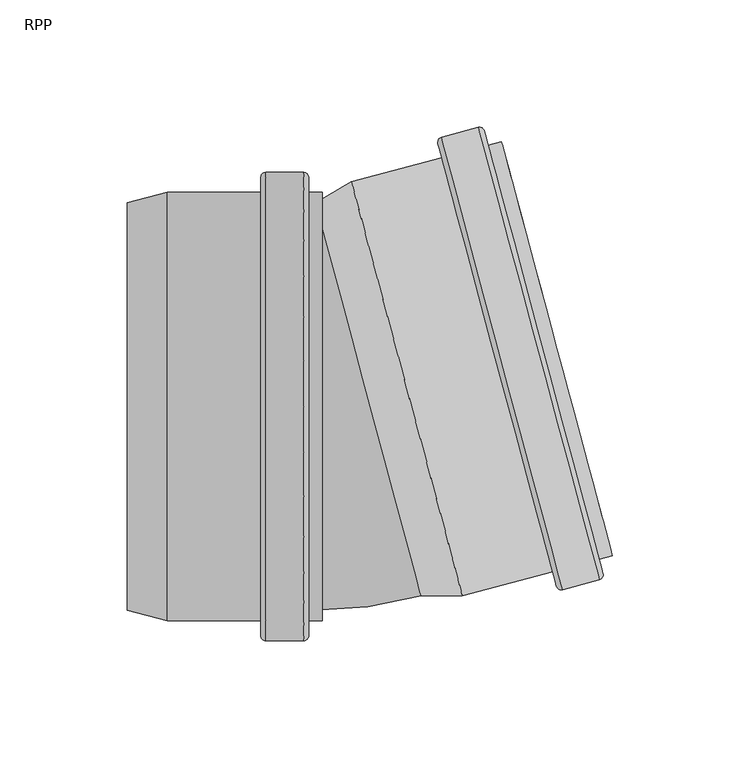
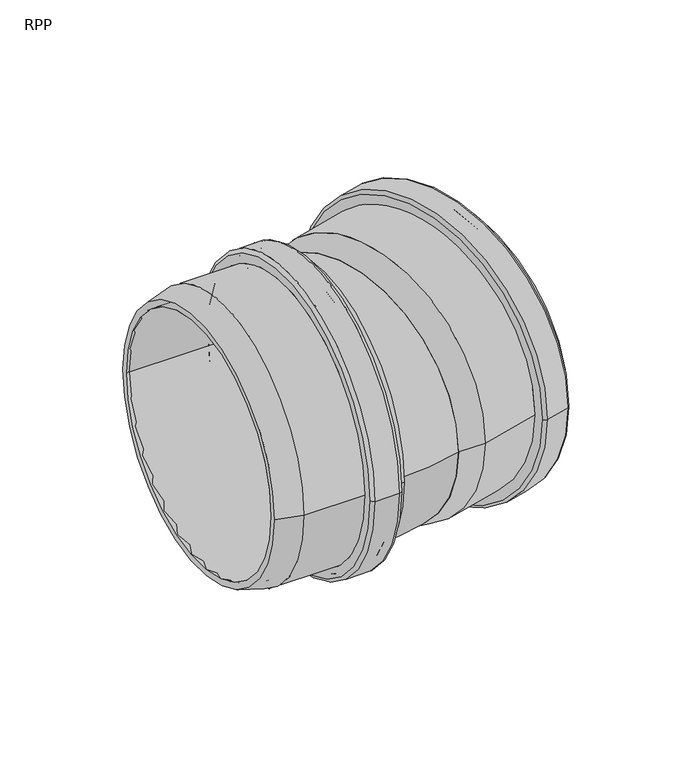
"""IFC4 building model written with IfcOpenShell, lengths in millimetres: pipe fitting geometry, RAUPIANO PLUS Bend : RPP."""

from ifc_helpers import new_model, si_unit, point, frame, origin, place, context, project, spatial, polyline, circle_curve, ellipse_curve, trimmed, source, transform, mapped, element, save
from ifc_brep_helpers import plane_surface, cylinder_surface, revolved_surface, advanced_brep


def rpp_5b691334(model_context):
    return source(origin(), model_context, "Body", "AdvancedBrep", [
        advanced_brep(
        [(-27.7588098, -80.3, 0.0), (-27.7588098, 80.3, 0.0), (-67.8707517, 80.3, 0.0), (-67.8707517, -80.3, 0.0), (-27.2588098, -88.1, 0.0), (-27.2588098, 88.1, 0.0), (-27.7588098, 87.6, 0.0), (-27.7588098, -87.6, 0.0), (-17.1588098, -88.1, 0.0), (-17.1588098, 88.1, 0.0), (-16.6588098, -87.6, 0.0), (-16.6588098, 87.6, 0.0), (-7.3588098, -80.3, 0.0), (-7.3588098, 80.3, 0.0), (-16.6588098, 80.3, 0.0), (-16.6588098, -80.3, 0.0), (-12.7588098, -84.2, 0.0), (-12.7588098, 84.2, 0.0), (-7.3588098, 84.2, 0.0), (-7.3588098, -84.2, 0.0), (-14.7588098, -92.0, 0.0), (-14.7588098, 92.0, 0.0), (-12.7588098, 90.0, 0.0), (-12.7588098, -90.0, 0.0), (-29.6588098, -92.0, 0.0), (-29.6588098, 92.0, 0.0), (-31.6588098, -90.0, 0.0), (-31.6588098, 90.0, 0.0), (-68.3841964, -84.2, 0.0), (-68.3841964, 84.2, 0.0), (-31.6588098, 84.2, 0.0), (-31.6588098, -84.2, 0.0), (-84.0588098, -80.0, 0.0), (-84.0588098, 80.0, 0.0), (-84.0588098, 75.9624229, 0.0), (-84.0588098, -75.9624229, 0.0)],
        [
            (0, 1, circle_curve(frame((-27.7588098, 0.0, 0.0), z_axis=(1.0, 0.0, 0.0), x_axis=(0.0, 1.0, 0.0)), 80.3)),
            (1, 2),
            (2, 3, circle_curve(frame((-67.8707517, 0.0, 0.0), z_axis=(-1.0, 0.0, 0.0), x_axis=(0.0, 1.0, 0.0)), 80.3)),
            (3, 0),
            (4, 5, circle_curve(frame((-27.2588098, 0.0, 0.0), z_axis=(1.0, 0.0, 0.0), x_axis=(0.0, 1.0, 0.0)), 88.1)),
            (5, 6, circle_curve(frame((-27.2588098, 87.6, 0.0), z_axis=(0.0, 0.0, 1.0), x_axis=(0.0, -1.0, 0.0)), 0.5)),
            (6, 7, circle_curve(frame((-27.7588098, 0.0, 0.0), z_axis=(-1.0, 0.0, 0.0), x_axis=(0.0, 1.0, 0.0)), 87.6)),
            (7, 4, circle_curve(frame((-27.2588098, -87.6, 0.0), z_axis=(0.0, 0.0, 1.0), x_axis=(0.0, 1.0, 0.0)), 0.5)),
            (8, 9, circle_curve(frame((-17.1588098, 0.0, 0.0), z_axis=(1.0, 0.0, 0.0), x_axis=(0.0, 1.0, 0.0)), 88.1)),
            (9, 5),
            (4, 8),
            (10, 11, circle_curve(frame((-16.6588098, 0.0, 0.0), z_axis=(1.0, 0.0, 0.0), x_axis=(0.0, 1.0, 0.0)), 87.6)),
            (11, 9, circle_curve(frame((-17.1588098, 87.6, 0.0), z_axis=(0.0, 0.0, 1.0), x_axis=(0.0, -1.0, 0.0)), 0.5)),
            (8, 10, circle_curve(frame((-17.1588098, -87.6, 0.0), z_axis=(0.0, 0.0, 1.0), x_axis=(0.0, 1.0, 0.0)), 0.5)),
            (12, 13, circle_curve(frame((-7.3588098, 0.0, 0.0), z_axis=(1.0, 0.0, 0.0), x_axis=(0.0, 1.0, 0.0)), 80.3)),
            (13, 14),
            (14, 15, circle_curve(frame((-16.6588098, 0.0, 0.0), z_axis=(-1.0, 0.0, 0.0), x_axis=(0.0, 1.0, 0.0)), 80.3)),
            (15, 12),
            (16, 17, circle_curve(frame((-12.7588098, 0.0, 0.0), z_axis=(1.0, 0.0, 0.0), x_axis=(0.0, 1.0, 0.0)), 84.2)),
            (17, 18),
            (18, 19, circle_curve(frame((-7.3588098, 0.0, 0.0), z_axis=(-1.0, 0.0, 0.0), x_axis=(0.0, 1.0, 0.0)), 84.2)),
            (19, 16),
            (20, 21, circle_curve(frame((-14.7588098, 0.0, 0.0), z_axis=(1.0, 0.0, 0.0), x_axis=(0.0, 1.0, 0.0)), 92.0)),
            (21, 22, circle_curve(frame((-14.7588098, 90.0, 0.0), z_axis=(0.0, 0.0, -1.0), x_axis=(0.0, -1.0, 0.0)), 2.0)),
            (22, 23, circle_curve(frame((-12.7588098, 0.0, 0.0), z_axis=(-1.0, 0.0, 0.0), x_axis=(0.0, 1.0, 0.0)), 90.0)),
            (23, 20, circle_curve(frame((-14.7588098, -90.0, 0.0), z_axis=(0.0, 0.0, -1.0), x_axis=(0.0, 1.0, 0.0)), 2.0)),
            (24, 25, circle_curve(frame((-29.6588098, 0.0, 0.0), z_axis=(1.0, 0.0, 0.0), x_axis=(0.0, 1.0, 0.0)), 92.0)),
            (25, 21),
            (20, 24),
            (26, 27, circle_curve(frame((-31.6588098, 0.0, 0.0), z_axis=(1.0, 0.0, 0.0), x_axis=(0.0, 1.0, 0.0)), 90.0)),
            (27, 25, circle_curve(frame((-29.6588098, 90.0, 0.0), z_axis=(0.0, 0.0, -1.0), x_axis=(0.0, -1.0, 0.0)), 2.0)),
            (24, 26, circle_curve(frame((-29.6588098, -90.0, 0.0), z_axis=(0.0, 0.0, -1.0), x_axis=(0.0, 1.0, 0.0)), 2.0)),
            (28, 29, circle_curve(frame((-68.3841964, 0.0, 0.0), z_axis=(1.0, 0.0, 0.0), x_axis=(0.0, 1.0, 0.0)), 84.2)),
            (29, 30),
            (30, 31, circle_curve(frame((-31.6588098, 0.0, 0.0), z_axis=(-1.0, 0.0, 0.0), x_axis=(0.0, 1.0, 0.0)), 84.2)),
            (31, 28),
            (32, 33, circle_curve(frame((-84.0588098, 0.0, 0.0), z_axis=(1.0, 0.0, 0.0), x_axis=(0.0, 1.0, 0.0)), 80.0)),
            (33, 29),
            (28, 32),
            (2, 34),
            (34, 35, circle_curve(frame((-84.0588098, 0.0, 0.0), z_axis=(-1.0, 0.0, 0.0), x_axis=(0.0, 1.0, 0.0)), 75.9624229)),
            (35, 3),
            (1, 0, circle_curve(frame((-27.7588098, 0.0, 0.0), z_axis=(1.0, 0.0, 0.0), x_axis=(0.0, -1.0, 0.0)), 80.3)),
            (3, 2, circle_curve(frame((-67.8707517, 0.0, 0.0), z_axis=(-1.0, 0.0, 0.0), x_axis=(0.0, -1.0, 0.0)), 80.3)),
            (6, 7, circle_curve(frame((-27.7588098, 0.0, 0.0), z_axis=(1.0, 0.0, 0.0), x_axis=(0.0, -1.0, 0.0)), 87.6)),
            (5, 4, circle_curve(frame((-27.2588098, 0.0, 0.0), z_axis=(1.0, 0.0, 0.0), x_axis=(0.0, -1.0, 0.0)), 88.1)),
            (9, 8, circle_curve(frame((-17.1588098, 0.0, 0.0), z_axis=(1.0, 0.0, 0.0), x_axis=(0.0, -1.0, 0.0)), 88.1)),
            (11, 10, circle_curve(frame((-16.6588098, 0.0, 0.0), z_axis=(1.0, 0.0, 0.0), x_axis=(0.0, -1.0, 0.0)), 87.6)),
            (14, 15, circle_curve(frame((-16.6588098, 0.0, 0.0), z_axis=(1.0, 0.0, 0.0), x_axis=(0.0, -1.0, 0.0)), 80.3)),
            (13, 12, circle_curve(frame((-7.3588098, 0.0, 0.0), z_axis=(1.0, 0.0, 0.0), x_axis=(0.0, -1.0, 0.0)), 80.3)),
            (18, 19, circle_curve(frame((-7.3588098, 0.0, 0.0), z_axis=(1.0, 0.0, 0.0), x_axis=(0.0, -1.0, 0.0)), 84.2)),
            (17, 16, circle_curve(frame((-12.7588098, 0.0, 0.0), z_axis=(1.0, 0.0, 0.0), x_axis=(0.0, -1.0, 0.0)), 84.2)),
            (22, 23, circle_curve(frame((-12.7588098, 0.0, 0.0), z_axis=(1.0, 0.0, 0.0), x_axis=(0.0, -1.0, 0.0)), 90.0)),
            (21, 20, circle_curve(frame((-14.7588098, 0.0, 0.0), z_axis=(1.0, 0.0, 0.0), x_axis=(0.0, -1.0, 0.0)), 92.0)),
            (25, 24, circle_curve(frame((-29.6588098, 0.0, 0.0), z_axis=(1.0, 0.0, 0.0), x_axis=(0.0, -1.0, 0.0)), 92.0)),
            (27, 26, circle_curve(frame((-31.6588098, 0.0, 0.0), z_axis=(1.0, 0.0, 0.0), x_axis=(0.0, -1.0, 0.0)), 90.0)),
            (30, 31, circle_curve(frame((-31.6588098, 0.0, 0.0), z_axis=(1.0, 0.0, 0.0), x_axis=(0.0, -1.0, 0.0)), 84.2)),
            (29, 28, circle_curve(frame((-68.3841964, 0.0, 0.0), z_axis=(1.0, 0.0, 0.0), x_axis=(0.0, -1.0, 0.0)), 84.2)),
            (33, 32, circle_curve(frame((-84.0588098, 0.0, 0.0), z_axis=(1.0, 0.0, 0.0), x_axis=(0.0, -1.0, 0.0)), 80.0)),
            (34, 35, circle_curve(frame((-84.0588098, 0.0, 0.0), z_axis=(1.0, 0.0, 0.0), x_axis=(0.0, -1.0, 0.0)), 75.9624229)),
        ],
        [
            revolved_surface(polyline([(-67.8707517, 80.3, 0.0), (-27.7588098, 80.3, 0.0)]), (-84.0588098, 0.0, 0.0), (-1.0, 0.0, 0.0)),
            revolved_surface(trimmed(ellipse_curve(frame((-27.2588098, 87.6, 0.0), z_axis=(0.0, 0.0, -1.0), x_axis=(0.0, -1.0, 0.0)), 0.5, 0.5), [point((-27.7588098, 87.6, 0.0))], [point((-27.2588098, 88.1, 0.0))], True, "CARTESIAN"), (-84.0588098, 0.0, 0.0), (-1.0, 0.0, 0.0)),
            revolved_surface(polyline([(-27.2588098, 88.1, 0.0), (-17.1588098, 88.1, 0.0)]), (-84.0588098, 0.0, 0.0), (-1.0, 0.0, 0.0)),
            revolved_surface(trimmed(ellipse_curve(frame((-17.1588098, 87.6, 0.0), z_axis=(0.0, 0.0, -1.0), x_axis=(0.0, -1.0, 0.0)), 0.5, 0.5), [point((-17.1588098, 88.1, 0.0))], [point((-16.6588098, 87.6, 0.0))], True, "CARTESIAN"), (-84.0588098, 0.0, 0.0), (-1.0, 0.0, 0.0)),
            revolved_surface(polyline([(-16.6588098, 80.3, 0.0), (-7.358809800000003, 80.3, 0.0)]), (-84.0588098, 0.0, 0.0), (-1.0, 0.0, 0.0)),
            cylinder_surface(frame((-84.0588098, 0.0, 0.0), z_axis=(-1.0, 0.0, 0.0), x_axis=(0.0, 1.0, 0.0)), 84.2),
            revolved_surface(trimmed(ellipse_curve(frame((-14.7588098, 90.0, 0.0), z_axis=(0.0, 0.0, 1.0), x_axis=(0.0, -1.0, 0.0)), 2.0, 2.0), [point((-12.7588098, 90.0, 0.0))], [point((-14.7588098, 92.0, 0.0))], True, "CARTESIAN"), (-84.0588098, 0.0, 0.0), (-1.0, 0.0, 0.0)),
            cylinder_surface(frame((-84.0588098, 0.0, 0.0), z_axis=(-1.0, 0.0, 0.0), x_axis=(0.0, 1.0, 0.0)), 92.0),
            revolved_surface(trimmed(ellipse_curve(frame((-29.6588098, 90.0, 0.0), z_axis=(0.0, 0.0, 1.0), x_axis=(0.0, -1.0, 0.0)), 2.0, 2.0), [point((-29.6588098, 92.0, 0.0))], [point((-31.6588098, 90.0, 0.0))], True, "CARTESIAN"), (-84.0588098, 0.0, 0.0), (-1.0, 0.0, 0.0)),
            revolved_surface(polyline([(-68.3841964, 84.2, 0.0), (-84.0588098, 80.0, 0.0)]), (-84.0588098, 0.0, 0.0), (-1.0, 0.0, 0.0)),
            revolved_surface(polyline([(-84.0588098, 75.9624229, 0.0), (-67.8707517, 80.3, 0.0)]), (-84.0588098, 0.0, 0.0), (-1.0, 0.0, 0.0)),
            revolved_surface(polyline([(-67.8707517, -80.3, 0.0), (-27.7588098, -80.3, 0.0)]), (-84.0588098, 0.0, 0.0), (-1.0, 0.0, 0.0)),
            plane_surface(frame((-27.7588098, 0.0, 0.0), z_axis=(1.0, 0.0, 0.0), x_axis=(0.0, -1.0, 0.0))),
            revolved_surface(trimmed(ellipse_curve(frame((-27.2588098, -87.6, 0.0), z_axis=(0.0, 0.0, 1.0), x_axis=(0.0, 1.0, 0.0)), 0.5, 0.5), [point((-27.7588098, -87.6, 0.0))], [point((-27.2588098, -88.1, 0.0))], True, "CARTESIAN"), (-84.0588098, 0.0, 0.0), (-1.0, 0.0, 0.0)),
            revolved_surface(polyline([(-27.2588098, -88.1, 0.0), (-17.1588098, -88.1, 0.0)]), (-84.0588098, 0.0, 0.0), (-1.0, 0.0, 0.0)),
            revolved_surface(trimmed(ellipse_curve(frame((-17.1588098, -87.6, 0.0), z_axis=(0.0, 0.0, 1.0), x_axis=(0.0, 1.0, 0.0)), 0.5, 0.5), [point((-17.1588098, -88.1, 0.0))], [point((-16.6588098, -87.6, 0.0))], True, "CARTESIAN"), (-84.0588098, 0.0, 0.0), (-1.0, 0.0, 0.0)),
            plane_surface(frame((-16.6588098, 0.0, 0.0), z_axis=(-1.0, 0.0, 0.0), x_axis=(0.0, -1.0, 0.0))),
            revolved_surface(polyline([(-16.6588098, -80.3, 0.0), (-7.358809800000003, -80.3, 0.0)]), (-84.0588098, 0.0, 0.0), (-1.0, 0.0, 0.0)),
            plane_surface(frame((-7.3588098, 0.0, 0.0), z_axis=(1.0, 0.0, 0.0), x_axis=(0.0, -1.0, 0.0))),
            cylinder_surface(frame((-84.0588098, 0.0, 0.0), z_axis=(-1.0, 0.0, 0.0), x_axis=(0.0, -1.0, 0.0)), 84.2),
            plane_surface(frame((-12.7588098, 0.0, 0.0), z_axis=(1.0, 0.0, 0.0), x_axis=(0.0, -1.0, 0.0))),
            revolved_surface(trimmed(ellipse_curve(frame((-14.7588098, -90.0, 0.0), z_axis=(0.0, 0.0, -1.0), x_axis=(0.0, 1.0, 0.0)), 2.0, 2.0), [point((-12.7588098, -90.0, 0.0))], [point((-14.7588098, -92.0, 0.0))], True, "CARTESIAN"), (-84.0588098, 0.0, 0.0), (-1.0, 0.0, 0.0)),
            cylinder_surface(frame((-84.0588098, 0.0, 0.0), z_axis=(-1.0, 0.0, 0.0), x_axis=(0.0, -1.0, 0.0)), 92.0),
            revolved_surface(trimmed(ellipse_curve(frame((-29.6588098, -90.0, 0.0), z_axis=(0.0, 0.0, -1.0), x_axis=(0.0, 1.0, 0.0)), 2.0, 2.0), [point((-29.6588098, -92.0, 0.0))], [point((-31.6588098, -90.0, 0.0))], True, "CARTESIAN"), (-84.0588098, 0.0, 0.0), (-1.0, 0.0, 0.0)),
            plane_surface(frame((-31.6588098, 0.0, 0.0), z_axis=(-1.0, 0.0, 0.0), x_axis=(0.0, -1.0, 0.0))),
            revolved_surface(polyline([(-68.3841964, -84.2, 0.0), (-84.0588098, -80.0, 0.0)]), (-84.0588098, 0.0, 0.0), (-1.0, 0.0, 0.0)),
            plane_surface(frame((-84.0588098, 0.0, 0.0), z_axis=(-1.0, 0.0, 0.0), x_axis=(0.0, -1.0, 0.0))),
            revolved_surface(polyline([(-84.0588098, -75.9624229, 0.0), (-67.8707517, -80.3, 0.0)]), (-84.0588098, 0.0, 0.0), (-1.0, 0.0, 0.0)),
        ],
        [
            (0, [[1, 2, 3, 4]]),
            (1, [[5, 6, 7, 8]]),
            (2, [[9, 10, -5, 11]]),
            (3, [[12, 13, -9, 14]]),
            (4, [[15, 16, 17, 18]]),
            (5, [[19, 20, 21, 22]]),
            (6, [[23, 24, 25, 26]]),
            (7, [[27, 28, -23, 29]]),
            (8, [[30, 31, -27, 32]]),
            (5, [[33, 34, 35, 36]]),
            (9, [[37, 38, -33, 39]]),
            (10, [[-3, 40, 41, 42]]),
            (11, [[43, -4, 44, -2]]),
            (12, [[45, -7], [-43, -1]]),
            (13, [[46, -8, -45, -6]]),
            (14, [[47, -11, -46, -10]]),
            (15, [[48, -14, -47, -13]]),
            (16, [[-48, -12], [49, -17]]),
            (17, [[50, -18, -49, -16]]),
            (18, [[51, -21], [-50, -15]]),
            (19, [[52, -22, -51, -20]]),
            (20, [[53, -25], [-52, -19]]),
            (21, [[54, -26, -53, -24]]),
            (22, [[55, -29, -54, -28]]),
            (23, [[56, -32, -55, -31]]),
            (24, [[-56, -30], [57, -35]]),
            (19, [[58, -36, -57, -34]]),
            (25, [[59, -39, -58, -38]]),
            (26, [[-59, -37], [60, -41]]),
            (27, [[-44, -42, -60, -40]]),
        ],
    ),
        advanced_brep(
        [(30.3425117, -70.5118355, 0.0), (-8.9785318, 76.2362967, 0.0), (5.5352841, 84.6158522, 0.0), (47.1016227, -70.5118355, 0.0), (47.6150675, -74.4118355, 0.0), (4.0299403, 88.2500736, 0.0), (-10.0235336, 80.1362967, 0.0), (31.3875136, -74.4118355, 0.0), (83.0890669, -64.906606, 0.0), (39.5039397, 97.7553031, 0.0), (101.4320019, -68.0667856, 0.0), (53.8092976, 109.6635664, 0.0), (39.4170028, 105.8071627, 0.0), (87.0397071, -71.9231894, 0.0), (106.5610645, -58.6173032, 0.0), (62.9759373, 104.0446059, 0.0), (57.7599378, 102.6469831, 0.0), (101.345065, -60.0149261, 0.0), (96.56856, -57.2572096, 0.0), (55.0022214, 97.8704781, 0.0), (63.9853315, 100.2774952, 0.0), (105.5516702, -54.8501925, 0.0), (88.3485348, -67.5349129, 0.0), (42.7446191, 102.6612176, 0.0), (52.5004699, 105.27529, 0.0), (98.1043856, -64.9208406, 0.0), (44.2804447, 94.9975867, 0.0), (85.8467833, -60.130101, 0.0), (38.0027892, 103.3576729, 0.0), (84.5902173, -70.5089758, 0.0), (102.8462155, -65.6172959, 0.0), (56.2587873, 108.2493529, 0.0), (53.1128423, 104.9217366, 0.0), (98.457939, -64.3084682, 0.0), (87.7361624, -67.1813596, 0.0), (42.3910657, 102.0488452, 0.0)],
        [
            (0, 1, circle_curve(frame((10.68199, 2.8622306, 0.0), z_axis=(-0.965925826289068, -0.25881904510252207, 0.0), x_axis=(-0.25881904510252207, 0.965925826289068, 0.0)), 75.9624229)),
            (1, 2),
            (2, 3, circle_curve(frame((26.3184534, 7.0520083, 0.0), z_axis=(0.965925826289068, 0.25881904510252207, 0.0), x_axis=(-0.25881904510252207, 0.965925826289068, 0.0)), 80.3)),
            (3, 0),
            (4, 5, circle_curve(frame((25.8225039, 6.9191191, 0.0), z_axis=(-0.965925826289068, -0.25881904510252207, 0.0), x_axis=(-0.25881904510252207, 0.965925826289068, 0.0)), 84.2)),
            (5, 6),
            (6, 7, circle_curve(frame((10.68199, 2.8622306, 0.0), z_axis=(0.965925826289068, 0.25881904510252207, 0.0), x_axis=(-0.25881904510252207, 0.965925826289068, 0.0)), 80.0)),
            (7, 4),
            (8, 9, circle_curve(frame((61.2965033, 16.4243486, 0.0), z_axis=(-0.965925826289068, -0.25881904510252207, 0.0), x_axis=(-0.25881904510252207, 0.965925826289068, 0.0)), 84.2)),
            (9, 5),
            (4, 8),
            (10, 11, circle_curve(frame((77.6206498, 20.7983904, 0.0), z_axis=(-0.965925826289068, -0.25881904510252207, 0.0), x_axis=(-0.25881904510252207, 0.965925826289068, 0.0)), 92.0)),
            (11, 12),
            (12, 13, circle_curve(frame((63.2283549, 16.9419866, 0.0), z_axis=(0.965925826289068, 0.25881904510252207, 0.0), x_axis=(-0.25881904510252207, 0.965925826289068, 0.0)), 92.0)),
            (13, 10),
            (14, 15, circle_curve(frame((84.7685009, 22.7136514, 0.0), z_axis=(-0.965925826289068, -0.25881904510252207, 0.0), x_axis=(-0.25881904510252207, 0.965925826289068, 0.0)), 84.2)),
            (15, 16),
            (16, 17, circle_curve(frame((79.5525014, 21.3160285, 0.0), z_axis=(0.965925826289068, 0.25881904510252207, 0.0), x_axis=(-0.25881904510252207, 0.965925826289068, 0.0)), 84.2)),
            (17, 14),
            (18, 19, circle_curve(frame((75.7853907, 20.3066342, 0.0), z_axis=(-0.965925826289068, -0.25881904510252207, 0.0), x_axis=(-0.25881904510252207, 0.965925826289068, 0.0)), 80.3)),
            (19, 20),
            (20, 21, circle_curve(frame((84.7685009, 22.7136514, 0.0), z_axis=(0.965925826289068, 0.25881904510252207, 0.0), x_axis=(-0.25881904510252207, 0.965925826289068, 0.0)), 80.3)),
            (21, 18),
            (22, 23, circle_curve(frame((65.5465769, 17.5631524, 0.0), z_axis=(-0.965925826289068, -0.25881904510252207, 0.0), x_axis=(-0.25881904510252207, 0.965925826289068, 0.0)), 88.1)),
            (23, 24),
            (24, 25, circle_curve(frame((75.3024278, 20.1772247, 0.0), z_axis=(0.965925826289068, 0.25881904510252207, 0.0), x_axis=(-0.25881904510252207, 0.965925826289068, 0.0)), 88.1)),
            (25, 22),
            (2, 26),
            (26, 27, circle_curve(frame((65.063614, 17.4337428, 0.0), z_axis=(0.965925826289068, 0.25881904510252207, 0.0), x_axis=(-0.25881904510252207, 0.965925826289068, 0.0)), 80.3)),
            (27, 3),
            (1, 0, circle_curve(frame((10.68199, 2.8622306, 0.0), z_axis=(-0.965925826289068, -0.25881904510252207, 0.0), x_axis=(0.25881904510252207, -0.965925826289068, 0.0)), 75.9624229)),
            (3, 2, circle_curve(frame((26.3184534, 7.0520083, 0.0), z_axis=(0.965925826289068, 0.25881904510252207, 0.0), x_axis=(0.25881904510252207, -0.965925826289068, 0.0)), 80.3)),
            (6, 7, circle_curve(frame((10.68199, 2.8622306, 0.0), z_axis=(-0.965925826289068, -0.25881904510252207, 0.0), x_axis=(0.25881904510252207, -0.965925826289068, 0.0)), 80.0)),
            (5, 4, circle_curve(frame((25.8225039, 6.9191191, 0.0), z_axis=(-0.965925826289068, -0.25881904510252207, 0.0), x_axis=(0.25881904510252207, -0.965925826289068, 0.0)), 84.2)),
            (9, 8, circle_curve(frame((61.2965033, 16.4243486, 0.0), z_axis=(-0.965925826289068, -0.25881904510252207, 0.0), x_axis=(0.25881904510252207, -0.965925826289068, 0.0)), 84.2)),
            (28, 29, circle_curve(frame((61.2965033, 16.4243486, 0.0), z_axis=(-0.965925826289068, -0.25881904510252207, 0.0), x_axis=(0.25881904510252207, -0.965925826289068, 0.0)), 90.0)),
            (29, 28, circle_curve(frame((61.2965033, 16.4243486, 0.0), z_axis=(-0.965925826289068, -0.25881904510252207, 0.0), x_axis=(-0.25881904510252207, 0.965925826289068, 0.0)), 90.0)),
            (11, 10, circle_curve(frame((77.6206498, 20.7983904, 0.0), z_axis=(-0.965925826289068, -0.25881904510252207, 0.0), x_axis=(0.25881904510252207, -0.965925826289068, 0.0)), 92.0)),
            (13, 12, circle_curve(frame((63.2283549, 16.9419866, 0.0), z_axis=(0.965925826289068, 0.25881904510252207, 0.0), x_axis=(0.25881904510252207, -0.965925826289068, 0.0)), 92.0)),
            (30, 31, circle_curve(frame((79.5525014, 21.3160285, 0.0), z_axis=(0.965925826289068, 0.25881904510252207, 0.0), x_axis=(0.25881904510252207, -0.965925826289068, 0.0)), 90.0)),
            (31, 30, circle_curve(frame((79.5525014, 21.3160285, 0.0), z_axis=(0.965925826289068, 0.25881904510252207, 0.0), x_axis=(-0.25881904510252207, 0.965925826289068, 0.0)), 90.0)),
            (16, 17, circle_curve(frame((79.5525014, 21.3160285, 0.0), z_axis=(-0.965925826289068, -0.25881904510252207, 0.0), x_axis=(0.25881904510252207, -0.965925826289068, 0.0)), 84.2)),
            (15, 14, circle_curve(frame((84.7685009, 22.7136514, 0.0), z_axis=(-0.965925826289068, -0.25881904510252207, 0.0), x_axis=(0.25881904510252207, -0.965925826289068, 0.0)), 84.2)),
            (20, 21, circle_curve(frame((84.7685009, 22.7136514, 0.0), z_axis=(-0.965925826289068, -0.25881904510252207, 0.0), x_axis=(0.25881904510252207, -0.965925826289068, 0.0)), 80.3)),
            (19, 18, circle_curve(frame((75.7853907, 20.3066342, 0.0), z_axis=(-0.965925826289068, -0.25881904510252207, 0.0), x_axis=(0.25881904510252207, -0.965925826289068, 0.0)), 80.3)),
            (32, 33, circle_curve(frame((75.7853907, 20.3066342, 0.0), z_axis=(-0.965925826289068, -0.25881904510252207, 0.0), x_axis=(0.25881904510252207, -0.965925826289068, 0.0)), 87.6)),
            (33, 32, circle_curve(frame((75.7853907, 20.3066342, 0.0), z_axis=(-0.965925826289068, -0.25881904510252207, 0.0), x_axis=(-0.25881904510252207, 0.965925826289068, 0.0)), 87.6)),
            (23, 22, circle_curve(frame((65.5465769, 17.5631524, 0.0), z_axis=(-0.965925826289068, -0.25881904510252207, 0.0), x_axis=(0.25881904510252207, -0.965925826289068, 0.0)), 88.1)),
            (25, 24, circle_curve(frame((75.3024278, 20.1772247, 0.0), z_axis=(0.965925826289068, 0.25881904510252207, 0.0), x_axis=(0.25881904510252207, -0.965925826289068, 0.0)), 88.1)),
            (34, 35, circle_curve(frame((65.063614, 17.4337428, 0.0), z_axis=(0.965925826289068, 0.25881904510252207, 0.0), x_axis=(0.25881904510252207, -0.965925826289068, 0.0)), 87.6)),
            (35, 34, circle_curve(frame((65.063614, 17.4337428, 0.0), z_axis=(0.965925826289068, 0.25881904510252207, 0.0), x_axis=(-0.25881904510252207, 0.965925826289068, 0.0)), 87.6)),
            (26, 27, circle_curve(frame((65.063614, 17.4337428, 0.0), z_axis=(-0.965925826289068, -0.25881904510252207, 0.0), x_axis=(0.25881904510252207, -0.965925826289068, 0.0)), 80.3)),
            (12, 28, circle_curve(frame((39.9346409, 103.875311, 0.0), z_axis=(0.0, 0.0, 1.0), x_axis=(0.258819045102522, -0.965925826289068, 0.0)), 2.0)),
            (29, 13, circle_curve(frame((86.522069, -69.9913377, 0.0), z_axis=(0.0, 0.0, 1.0), x_axis=(-0.2588190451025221, 0.965925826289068, 0.0)), 2.0)),
            (31, 11, circle_curve(frame((54.3269357, 107.7317148, 0.0), z_axis=(0.0, 0.0, 1.0), x_axis=(0.258819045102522, -0.965925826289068, 0.0)), 2.0)),
            (10, 30, circle_curve(frame((100.9143638, -66.1349339, 0.0), z_axis=(0.0, 0.0, 1.0), x_axis=(-0.2588190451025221, 0.965925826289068, 0.0)), 2.0)),
            (24, 32, circle_curve(frame((52.6298794, 104.7923271, 0.0), z_axis=(0.0, 0.0, -1.0), x_axis=(0.258819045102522, -0.965925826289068, 0.0)), 0.5)),
            (33, 25, circle_curve(frame((97.9749761, -64.4378777, 0.0), z_axis=(0.0, 0.0, -1.0), x_axis=(-0.2588190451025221, 0.965925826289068, 0.0)), 0.5)),
            (35, 23, circle_curve(frame((42.8740286, 102.1782547, 0.0), z_axis=(0.0, 0.0, -1.0), x_axis=(0.258819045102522, -0.965925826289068, 0.0)), 0.5)),
            (22, 34, circle_curve(frame((88.2191253, -67.05195, 0.0), z_axis=(0.0, 0.0, -1.0), x_axis=(-0.2588190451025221, 0.965925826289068, 0.0)), 0.5)),
        ],
        [
            revolved_surface(polyline([(5.5352841, 84.6158522, 0.0), (-8.9785318, 76.2362967, 0.0)]), (10.68199, 2.8622306, 0.0), (0.965925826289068, 0.25881904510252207, 0.0)),
            revolved_surface(polyline([(-10.0235336, 80.1362967, 0.0), (4.0299403, 88.2500736, 0.0)]), (10.68199, 2.8622306, 0.0), (0.965925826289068, 0.25881904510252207, 0.0)),
            cylinder_surface(frame((10.68199, 2.8622306, 0.0), z_axis=(0.965925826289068, 0.25881904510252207, 0.0), x_axis=(-0.25881904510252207, 0.965925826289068, 0.0)), 84.2),
            cylinder_surface(frame((10.68199, 2.8622306, 0.0), z_axis=(0.965925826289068, 0.25881904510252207, 0.0), x_axis=(-0.25881904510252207, 0.965925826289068, 0.0)), 92.0),
            revolved_surface(polyline([(63.98533158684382, 100.27749521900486, 0.0), (55.002221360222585, 97.87047808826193, 0.0)]), (10.68199, 2.8622306, 0.0), (0.965925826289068, 0.25881904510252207, 0.0)),
            revolved_surface(polyline([(52.50046992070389, 105.27529001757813, 0.0), (42.74461903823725, 102.66121765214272, 0.0)]), (10.68199, 2.8622306, 0.0), (0.965925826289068, 0.25881904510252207, 0.0)),
            revolved_surface(polyline([(44.28044470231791, 94.99758669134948, 0.0), (5.535284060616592, 84.61585218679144, 0.0)]), (10.68199, 2.8622306, 0.0), (0.965925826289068, 0.25881904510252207, 0.0)),
            revolved_surface(polyline([(47.1016227, -70.5118355, 0.0), (30.3425117, -70.5118355, 0.0)]), (10.68199, 2.8622306, 0.0), (0.965925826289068, 0.25881904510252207, 0.0)),
            plane_surface(frame((10.68199, 2.8622306, 0.0), z_axis=(-0.965925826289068, -0.25881904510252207, 0.0), x_axis=(0.25881904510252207, -0.965925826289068, 0.0))),
            revolved_surface(polyline([(31.3875136, -74.4118355, 0.0), (47.6150675, -74.4118355, 0.0)]), (10.68199, 2.8622306, 0.0), (0.965925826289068, 0.25881904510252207, 0.0)),
            cylinder_surface(frame((10.68199, 2.8622306, 0.0), z_axis=(0.965925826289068, 0.25881904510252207, 0.0), x_axis=(0.25881904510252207, -0.965925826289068, 0.0)), 84.2),
            plane_surface(frame((61.2965033, 16.4243486, 0.0), z_axis=(-0.965925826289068, -0.25881904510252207, 0.0), x_axis=(0.25881904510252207, -0.965925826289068, 0.0))),
            cylinder_surface(frame((10.68199, 2.8622306, 0.0), z_axis=(0.965925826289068, 0.25881904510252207, 0.0), x_axis=(0.25881904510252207, -0.965925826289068, 0.0)), 92.0),
            plane_surface(frame((79.5525014, 21.3160285, 0.0), z_axis=(0.965925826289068, 0.25881904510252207, 0.0), x_axis=(0.25881904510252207, -0.965925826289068, 0.0))),
            plane_surface(frame((84.7685009, 22.7136514, 0.0), z_axis=(0.965925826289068, 0.25881904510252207, 0.0), x_axis=(0.25881904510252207, -0.965925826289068, 0.0))),
            revolved_surface(polyline([(105.55167023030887, -54.85019248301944, 0.0), (96.56856000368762, -57.25720961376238, 0.0)]), (10.68199, 2.8622306, 0.0), (0.965925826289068, 0.25881904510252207, 0.0)),
            plane_surface(frame((75.7853907, 20.3066342, 0.0), z_axis=(-0.965925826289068, -0.25881904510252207, 0.0), x_axis=(0.25881904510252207, -0.965925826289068, 0.0))),
            revolved_surface(polyline([(98.10438566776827, -64.92084057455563, 0.0), (88.34853478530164, -67.53491293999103, 0.0)]), (10.68199, 2.8622306, 0.0), (0.965925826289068, 0.25881904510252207, 0.0)),
            plane_surface(frame((65.063614, 17.4337428, 0.0), z_axis=(0.965925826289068, 0.25881904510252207, 0.0), x_axis=(0.25881904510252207, -0.965925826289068, 0.0))),
            revolved_surface(polyline([(85.84678334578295, -60.130101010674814, 0.0), (47.101622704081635, -70.51183551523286, 0.0)]), (10.68199, 2.8622306, 0.0), (0.965925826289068, 0.25881904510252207, 0.0)),
            revolved_surface(trimmed(ellipse_curve(frame((39.9346409, 103.875311, 0.0), z_axis=(0.0, 0.0, -1.0), x_axis=(0.258819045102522, -0.965925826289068, 0.0)), 2.0, 2.0), [point((38.0027892, 103.3576729, 0.0))], [point((39.4170028, 105.8071627, 0.0))], True, "CARTESIAN"), (10.68199, 2.8622306, 0.0), (0.965925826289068, 0.25881904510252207, 0.0)),
            revolved_surface(trimmed(ellipse_curve(frame((54.3269357, 107.7317148, 0.0), z_axis=(0.0, 0.0, -1.0), x_axis=(0.258819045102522, -0.965925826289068, 0.0)), 2.0, 2.0), [point((53.8092976, 109.6635664, 0.0))], [point((56.2587873, 108.2493529, 0.0))], True, "CARTESIAN"), (10.68199, 2.8622306, 0.0), (0.965925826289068, 0.25881904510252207, 0.0)),
            revolved_surface(trimmed(ellipse_curve(frame((52.6298794, 104.7923271, 0.0), z_axis=(0.0, 0.0, 1.0), x_axis=(0.258819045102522, -0.965925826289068, 0.0)), 0.5, 0.5), [point((53.1128423, 104.9217366, 0.0))], [point((52.5004699, 105.27529, 0.0))], True, "CARTESIAN"), (10.68199, 2.8622306, 0.0), (0.965925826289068, 0.25881904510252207, 0.0)),
            revolved_surface(trimmed(ellipse_curve(frame((42.8740286, 102.1782547, 0.0), z_axis=(0.0, 0.0, 1.0), x_axis=(0.258819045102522, -0.965925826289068, 0.0)), 0.5, 0.5), [point((42.7446191, 102.6612176, 0.0))], [point((42.3910657, 102.0488452, 0.0))], True, "CARTESIAN"), (10.68199, 2.8622306, 0.0), (0.965925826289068, 0.25881904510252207, 0.0)),
            revolved_surface(trimmed(ellipse_curve(frame((86.522069, -69.9913377, 0.0), z_axis=(0.0, 0.0, 1.0), x_axis=(-0.2588190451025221, 0.965925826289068, 0.0)), 2.0, 2.0), [point((84.5902173, -70.5089758, 0.0))], [point((87.0397071, -71.9231894, 0.0))], True, "CARTESIAN"), (10.68199, 2.8622306, 0.0), (0.965925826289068, 0.25881904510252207, 0.0)),
            revolved_surface(trimmed(ellipse_curve(frame((100.9143638, -66.1349339, 0.0), z_axis=(0.0, 0.0, 1.0), x_axis=(-0.2588190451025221, 0.965925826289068, 0.0)), 2.0, 2.0), [point((101.4320019, -68.0667856, 0.0))], [point((102.8462155, -65.6172959, 0.0))], True, "CARTESIAN"), (10.68199, 2.8622306, 0.0), (0.965925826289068, 0.25881904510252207, 0.0)),
            revolved_surface(trimmed(ellipse_curve(frame((97.9749761, -64.4378777, 0.0), z_axis=(0.0, 0.0, -1.0), x_axis=(-0.2588190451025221, 0.965925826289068, 0.0)), 0.5, 0.5), [point((98.457939, -64.3084682, 0.0))], [point((98.1043856, -64.9208406, 0.0))], True, "CARTESIAN"), (10.68199, 2.8622306, 0.0), (0.965925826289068, 0.25881904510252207, 0.0)),
            revolved_surface(trimmed(ellipse_curve(frame((88.2191253, -67.05195, 0.0), z_axis=(0.0, 0.0, -1.0), x_axis=(-0.2588190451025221, 0.965925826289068, 0.0)), 0.5, 0.5), [point((88.3485348, -67.5349129, 0.0))], [point((87.7361624, -67.1813596, 0.0))], True, "CARTESIAN"), (10.68199, 2.8622306, 0.0), (0.965925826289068, 0.25881904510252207, 0.0)),
        ],
        [
            (0, [[1, 2, 3, 4]]),
            (1, [[5, 6, 7, 8]]),
            (2, [[9, 10, -5, 11]]),
            (3, [[12, 13, 14, 15]]),
            (2, [[16, 17, 18, 19]]),
            (4, [[20, 21, 22, 23]]),
            (5, [[24, 25, 26, 27]]),
            (6, [[-3, 28, 29, 30]]),
            (7, [[31, -4, 32, -2]]),
            (8, [[33, -7], [-31, -1]]),
            (9, [[34, -8, -33, -6]]),
            (10, [[35, -11, -34, -10]]),
            (11, [[36, 37], [-35, -9]]),
            (12, [[38, -15, 39, -13]]),
            (13, [[40, 41], [42, -18]]),
            (10, [[43, -19, -42, -17]]),
            (14, [[-43, -16], [44, -22]]),
            (15, [[45, -23, -44, -21]]),
            (16, [[46, 47], [-45, -20]]),
            (17, [[48, -27, 49, -25]]),
            (18, [[50, 51], [52, -29]]),
            (19, [[-32, -30, -52, -28]]),
            (20, [[-14, 53, -37, 54]]),
            (21, [[-41, 55, -12, 56]]),
            (22, [[-26, 57, -47, 58]]),
            (23, [[-51, 59, -24, 60]]),
            (24, [[-39, -54, -36, -53]]),
            (25, [[-40, -56, -38, -55]]),
            (26, [[-49, -58, -46, -57]]),
            (27, [[-50, -60, -48, -59]]),
        ],
    ),
        advanced_brep(
        [(-11.0588098, 76.1, 0.0), (-11.0588098, -76.1, 0.0), (-84.0588098, -76.1, 0.0), (-84.0588098, 76.1, 0.0), (-72.4894523, 80.0, 0.0), (-72.4894523, -80.0, 0.0), (-11.0588098, -80.0, 0.0), (-11.0588098, 80.0, 0.0), (-84.0588098, 76.9, 0.0), (-84.0588098, -76.9, 0.0)],
        [
            (0, 1, circle_curve(frame((-11.0588098, 0.0, 0.0), z_axis=(1.0, 0.0, 0.0), x_axis=(0.0, -1.0, 0.0)), 76.1)),
            (1, 2),
            (2, 3, circle_curve(frame((-84.0588098, 0.0, 0.0), z_axis=(-1.0, 0.0, 0.0), x_axis=(0.0, -1.0, 0.0)), 76.1)),
            (3, 0),
            (4, 5, circle_curve(frame((-72.4894523, 0.0, 0.0), z_axis=(1.0, 0.0, 0.0), x_axis=(0.0, -1.0, 0.0)), 80.0)),
            (5, 6),
            (6, 7, circle_curve(frame((-11.0588098, 0.0, 0.0), z_axis=(-1.0, 0.0, 0.0), x_axis=(0.0, -1.0, 0.0)), 80.0)),
            (7, 4),
            (8, 9, circle_curve(frame((-84.0588098, 0.0, 0.0), z_axis=(1.0, 0.0, 0.0), x_axis=(0.0, -1.0, 0.0)), 76.9)),
            (9, 5),
            (4, 8),
            (1, 0, circle_curve(frame((-11.0588098, 0.0, 0.0), z_axis=(1.0, 0.0, 0.0), x_axis=(0.0, 1.0, 0.0)), 76.1)),
            (3, 2, circle_curve(frame((-84.0588098, 0.0, 0.0), z_axis=(-1.0, 0.0, 0.0), x_axis=(0.0, 1.0, 0.0)), 76.1)),
            (6, 7, circle_curve(frame((-11.0588098, 0.0, 0.0), z_axis=(1.0, 0.0, 0.0), x_axis=(0.0, 1.0, 0.0)), 80.0)),
            (5, 4, circle_curve(frame((-72.4894523, 0.0, 0.0), z_axis=(1.0, 0.0, 0.0), x_axis=(0.0, 1.0, 0.0)), 80.0)),
            (9, 8, circle_curve(frame((-84.0588098, 0.0, 0.0), z_axis=(1.0, 0.0, 0.0), x_axis=(0.0, 1.0, 0.0)), 76.9)),
        ],
        [
            revolved_surface(polyline([(-84.0588098, -76.1, 0.0), (-11.0588098, -76.1, 0.0)]), (-11.0588098, 0.0, 0.0), (-1.0, 0.0, 0.0)),
            cylinder_surface(frame((-11.0588098, 0.0, 0.0), z_axis=(-1.0, 0.0, 0.0), x_axis=(0.0, -1.0, 0.0)), 80.0),
            revolved_surface(polyline([(-72.4894523, -80.0, 0.0), (-84.0588098, -76.9, 0.0)]), (-11.0588098, 0.0, 0.0), (-1.0, 0.0, 0.0)),
            revolved_surface(polyline([(-84.0588098, 76.1, 0.0), (-11.0588098, 76.1, 0.0)]), (-11.0588098, 0.0, 0.0), (-1.0, 0.0, 0.0)),
            plane_surface(frame((-11.0588098, 0.0, 0.0), z_axis=(1.0, 0.0, 0.0), x_axis=(0.0, 1.0, 0.0))),
            cylinder_surface(frame((-11.0588098, 0.0, 0.0), z_axis=(-1.0, 0.0, 0.0), x_axis=(0.0, 1.0, 0.0)), 80.0),
            revolved_surface(polyline([(-72.4894523, 80.0, 0.0), (-84.0588098, 76.9, 0.0)]), (-11.0588098, 0.0, 0.0), (-1.0, 0.0, 0.0)),
            plane_surface(frame((-84.0588098, 0.0, 0.0), z_axis=(-1.0, 0.0, 0.0), x_axis=(0.0, 1.0, 0.0))),
        ],
        [
            (0, [[1, 2, 3, 4]]),
            (1, [[5, 6, 7, 8]]),
            (2, [[9, 10, -5, 11]]),
            (3, [[12, -4, 13, -2]]),
            (4, [[14, -7], [-12, -1]]),
            (5, [[15, -8, -14, -6]]),
            (6, [[16, -11, -15, -10]]),
            (7, [[-16, -9], [-13, -3]]),
        ],
    ),
        advanced_brep(
        [(-11.0588098, -80.0, 0.0), (-11.0588098, 80.0, 0.0), (-11.0588098, -76.1, 0.0), (-11.0588098, 76.1, 0.0), (31.3875136, -74.4118355, 0.0), (-10.0235336, 80.1362967, 0.0), (30.3781193, -70.6447248, 0.0), (-9.0141393, 76.369186, 0.0)],
        [
            (0, 1, circle_curve(frame((-11.0588098, 0.0, 0.0), z_axis=(-1.0, 0.0, 0.0), x_axis=(0.0, 1.0, 0.0)), 80.0)),
            (1, 0, circle_curve(frame((-11.0588098, 0.0, 0.0), z_axis=(-1.0, 0.0, 0.0), x_axis=(0.0, 1.0, 0.0)), 80.0)),
            (2, 3, circle_curve(frame((-11.0588098, 0.0, 0.0), z_axis=(1.0, 0.0, 0.0), x_axis=(0.0, 1.0, 0.0)), 76.1)),
            (3, 2, circle_curve(frame((-11.0588098, 0.0, 0.0), z_axis=(1.0, 0.0, 0.0), x_axis=(0.0, 1.0, 0.0)), 76.1)),
            (4, 5, circle_curve(frame((10.68199, 2.8622306, 0.0), z_axis=(0.9659258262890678, 0.25881904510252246, 0.0), x_axis=(-0.25881904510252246, 0.9659258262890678, 0.0)), 80.0)),
            (5, 4, circle_curve(frame((10.68199, 2.8622306, 0.0), z_axis=(0.9659258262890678, 0.25881904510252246, 0.0), x_axis=(-0.25881904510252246, 0.9659258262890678, 0.0)), 80.0)),
            (6, 7, circle_curve(frame((10.68199, 2.8622306, 0.0), z_axis=(-0.9659258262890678, -0.25881904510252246, 0.0), x_axis=(-0.25881904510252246, 0.9659258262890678, 0.0)), 76.1)),
            (7, 6, circle_curve(frame((10.68199, 2.8622306, 0.0), z_axis=(-0.9659258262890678, -0.25881904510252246, 0.0), x_axis=(-0.25881904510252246, 0.9659258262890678, 0.0)), 76.1)),
            (7, 3, circle_curve(frame((-11.0588098, 84.0, 0.0), z_axis=(0.0, 0.0, -1.0), x_axis=(0.0, -1.0, 0.0)), 7.9)),
            (2, 6, circle_curve(frame((-11.0588098, 84.0, 0.0), z_axis=(0.0, 0.0, 1.0), x_axis=(0.0, -1.0, 0.0)), 160.1)),
            (5, 1, circle_curve(frame((-11.0588098, 84.0, 0.0), z_axis=(0.0, 0.0, -1.0), x_axis=(0.0, -1.0, 0.0)), 4.0)),
            (0, 4, circle_curve(frame((-11.0588098, 84.0, 0.0), z_axis=(0.0, 0.0, 1.0), x_axis=(0.0, -1.0, 0.0)), 164.0)),
        ],
        [
            plane_surface(frame((-11.0588098, 0.0, 0.0), z_axis=(-1.0, 0.0, 0.0), x_axis=(0.0, 0.0, 1.0))),
            plane_surface(frame((10.68199, 2.8622306, 0.0), z_axis=(0.9659258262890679, 0.2588190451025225, 0.0), x_axis=(0.0, 0.0, 1.0))),
            revolved_surface(trimmed(ellipse_curve(frame((-11.0588098, 0.0, 0.0), z_axis=(1.0, 0.0, 0.0), x_axis=(0.0, 1.0, 0.0)), 76.1, 76.1), [point((-11.0588098, -76.1, 0.0))], [point((-11.0588098, 76.1, 0.0))], True, "CARTESIAN"), (-11.0588098, 84.0, 0.0), (0.0, 0.0, 1.0)),
            revolved_surface(trimmed(ellipse_curve(frame((-11.0588098, 0.0, 0.0), z_axis=(1.0, 0.0, 0.0), x_axis=(0.0, 1.0, 0.0)), 76.1, 76.1), [point((-11.0588098, 76.1, 0.0))], [point((-11.0588098, -76.1, 0.0))], True, "CARTESIAN"), (-11.0588098, 84.0, 0.0), (0.0, 0.0, 1.0)),
            revolved_surface(trimmed(ellipse_curve(frame((-11.0588098, 0.0, 0.0), z_axis=(-1.0, 0.0, 0.0), x_axis=(0.0, 1.0, 0.0)), 80.0, 80.0), [point((-11.0588098, -80.0, 0.0))], [point((-11.0588098, 80.0, 0.0))], True, "CARTESIAN"), (-11.0588098, 84.0, 0.0), (0.0, 0.0, 1.0)),
            revolved_surface(trimmed(ellipse_curve(frame((-11.0588098, 0.0, 0.0), z_axis=(-1.0, 0.0, 0.0), x_axis=(0.0, 1.0, 0.0)), 80.0, 80.0), [point((-11.0588098, 80.0, 0.0))], [point((-11.0588098, -80.0, 0.0))], True, "CARTESIAN"), (-11.0588098, 84.0, 0.0), (0.0, 0.0, 1.0)),
        ],
        [
            (0, [[1, 2], [3, 4]]),
            (1, [[5, 6], [7, 8]]),
            (2, [[9, -3, 10, -8]]),
            (3, [[-10, -4, -9, -7]]),
            (4, [[11, -1, 12, -6]]),
            (5, [[-12, -2, -11, -5]]),
        ],
    ),
    ])


if __name__ == "__main__":
    model = new_model("IFC4")
    model_context = context("Model", 3, world=origin())
    ifc_project = project(units=[si_unit("LENGTHUNIT", "METRE", prefix="MILLI")], contexts=[model_context])
    site = spatial("IfcSite", under=ifc_project)
    building = spatial("IfcBuilding", under=site)
    placement = place(None, origin())
    rpp_shape = rpp_5b691334(model_context)
    element("IfcPipeFitting", 1, ObjectType="RAUPIANO PLUS Bend : RPP", at=placement, inside=building, context=model_context, shape_type="MappedRepresentation", body=[
        mapped(rpp_shape, transform((0.0, 0.0, 0.0), x_axis=(1.0, 0.0, 0.0), y_axis=(0.0, 1.0, 0.0), z_axis=(0.0, 0.0, 1.0))),
    ])
    save(model, "model.ifc")
